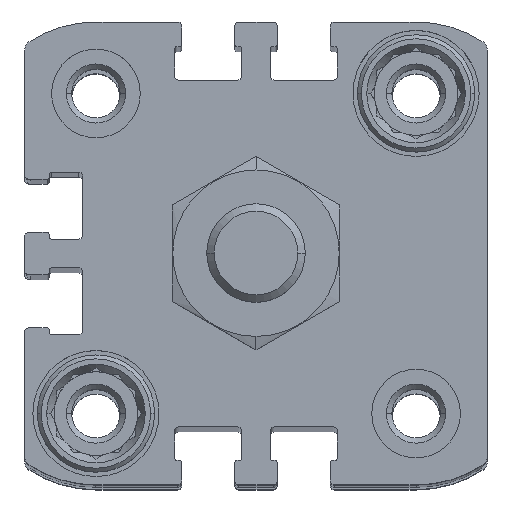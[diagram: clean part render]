
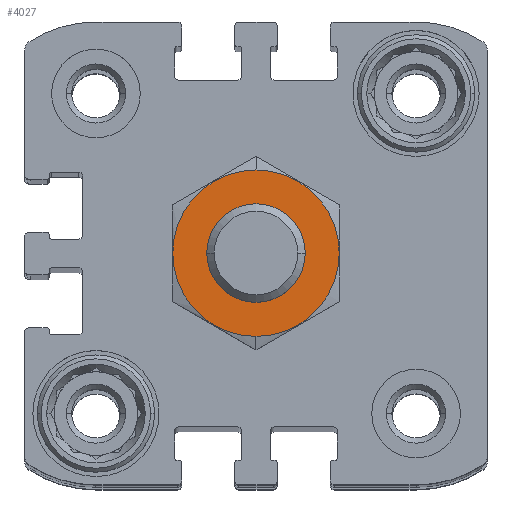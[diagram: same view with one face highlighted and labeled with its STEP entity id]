
A CAD part, top view. The second image highlights one B-rep face of the part: STEP entity #4027.
In plain terms, the highlighted planar face has unit normal (0, 0, 1) as drawn and (0, 1, 0) by its records, which use the part's own axes.
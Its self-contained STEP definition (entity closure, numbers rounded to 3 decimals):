
#2501 = AXIS2_PLACEMENT_3D ( 'NONE', #5500, #14217, #6759 ) ;
#2984 = AXIS2_PLACEMENT_3D ( 'NONE', #16257, #6377, #15084 ) ;
#2985 = CARTESIAN_POINT ( 'NONE',  ( 0., 0., -8.45 ) ) ;
#3520 = AXIS2_PLACEMENT_3D ( 'NONE', #4324, #13078, #5586 ) ;
#4027 = ADVANCED_FACE ( 'NONE', ( #16132, #15747 ), #13841, .F. ) ;
#4324 = CARTESIAN_POINT ( 'NONE',  ( 0., 0., 0. ) ) ;
#4583 = EDGE_LOOP ( 'NONE', ( #12881, #15966 ) ) ;
#5273 = AXIS2_PLACEMENT_3D ( 'NONE', #5797, #14499, #7059 ) ;
#5500 = CARTESIAN_POINT ( 'NONE',  ( 0., 0., 0. ) ) ;
#5586 = DIRECTION ( 'NONE',  ( 0., 0., 1. ) ) ;
#5630 = EDGE_CURVE ( 'NONE', #12919, #12008, #12575, .T. ) ;
#5797 = CARTESIAN_POINT ( 'NONE',  ( 0., 0., 0. ) ) ;
#6305 = CARTESIAN_POINT ( 'NONE',  ( 0., 0., 5. ) ) ;
#6377 = DIRECTION ( 'NONE',  ( 0., -1., 0. ) ) ;
#6759 = DIRECTION ( 'NONE',  ( 0., 0., -1. ) ) ;
#6896 = CARTESIAN_POINT ( 'NONE',  ( 0., 0., 0. ) ) ;
#7059 = DIRECTION ( 'NONE',  ( 0., 0., 1. ) ) ;
#7185 = ORIENTED_EDGE ( 'NONE', *, *, #8780, .F. ) ;
#7292 = EDGE_CURVE ( 'NONE', #15639, #9983, #7422, .T. ) ;
#7422 = CIRCLE ( 'NONE', #3520, 5. ) ;
#8149 = DIRECTION ( 'NONE',  ( 0., 0., -1. ) ) ;
#8780 = EDGE_CURVE ( 'NONE', #9983, #15639, #13597, .T. ) ;
#9287 = CIRCLE ( 'NONE', #14347, 8.45 ) ;
#9608 = EDGE_CURVE ( 'NONE', #12008, #12919, #9287, .T. ) ;
#9983 = VERTEX_POINT ( 'NONE', #6305 ) ;
#12008 = VERTEX_POINT ( 'NONE', #12597 ) ;
#12575 = CIRCLE ( 'NONE', #2501, 8.45 ) ;
#12597 = CARTESIAN_POINT ( 'NONE',  ( 0., 0., 8.45 ) ) ;
#12881 = ORIENTED_EDGE ( 'NONE', *, *, #5630, .F. ) ;
#12919 = VERTEX_POINT ( 'NONE', #2985 ) ;
#13078 = DIRECTION ( 'NONE',  ( 0., 1., 0. ) ) ;
#13597 = CIRCLE ( 'NONE', #5273, 5. ) ;
#13841 = PLANE ( 'NONE',  #2984 ) ;
#14217 = DIRECTION ( 'NONE',  ( 0., -1., 0. ) ) ;
#14347 = AXIS2_PLACEMENT_3D ( 'NONE', #6896, #15611, #8149 ) ;
#14499 = DIRECTION ( 'NONE',  ( 0., 1., 0. ) ) ;
#14931 = CARTESIAN_POINT ( 'NONE',  ( 0., 0., -5. ) ) ;
#15084 = DIRECTION ( 'NONE',  ( 0., 0., -1. ) ) ;
#15611 = DIRECTION ( 'NONE',  ( 0., -1., 0. ) ) ;
#15639 = VERTEX_POINT ( 'NONE', #14931 ) ;
#15747 = FACE_OUTER_BOUND ( 'NONE', #4583, .T. ) ;
#15966 = ORIENTED_EDGE ( 'NONE', *, *, #9608, .F. ) ;
#16132 = FACE_BOUND ( 'NONE', #16229, .T. ) ;
#16166 = ORIENTED_EDGE ( 'NONE', *, *, #7292, .F. ) ;
#16229 = EDGE_LOOP ( 'NONE', ( #7185, #16166 ) ) ;
#16257 = CARTESIAN_POINT ( 'NONE',  ( 0., 0., 0. ) ) ;
